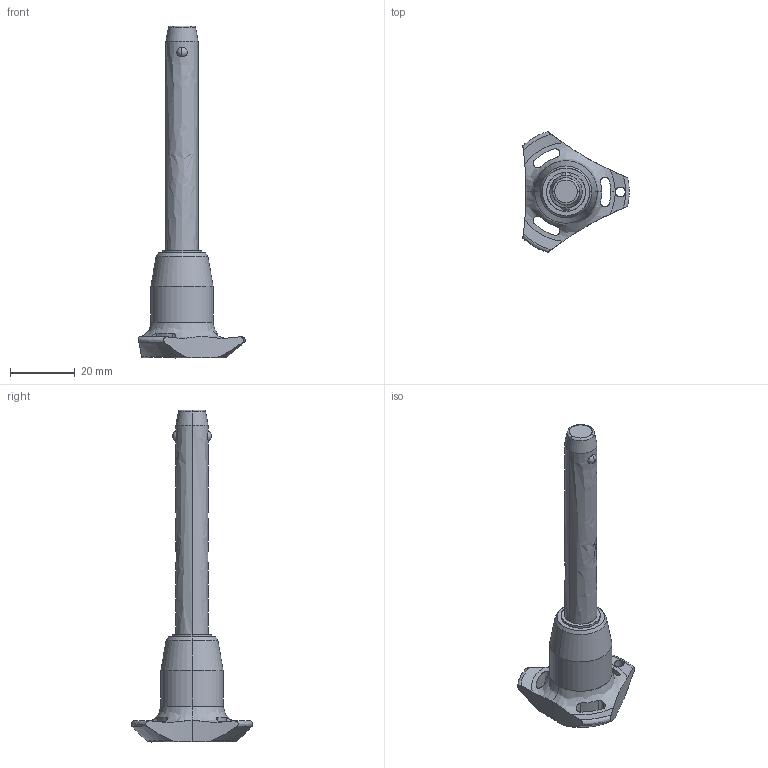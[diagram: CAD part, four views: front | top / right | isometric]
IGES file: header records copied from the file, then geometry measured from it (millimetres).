
Start section: SolidWorks IGES file using analytic representation for surfaces
Global section: file name: C:\Users\ianosborn\Desktop\QR1714_v2\QR1714_v2_20251112_IGES\QR1714.M10-060-S.igs; native system: SolidWorks 2019; preprocessor: SolidWorks 2019; author: IanOsborn; date: 251112.100925; units: millimetre
Bounding box: 33 x 37.51 x 102.9 mm (x, y, z)
Surface area: 6049.4 mm2 (no closed solid volume)
Topology: 0 solids, 0 shells, 65 faces, 1282 edges, 1278 vertices
Faces by surface type: revolution 50, bspline 15
